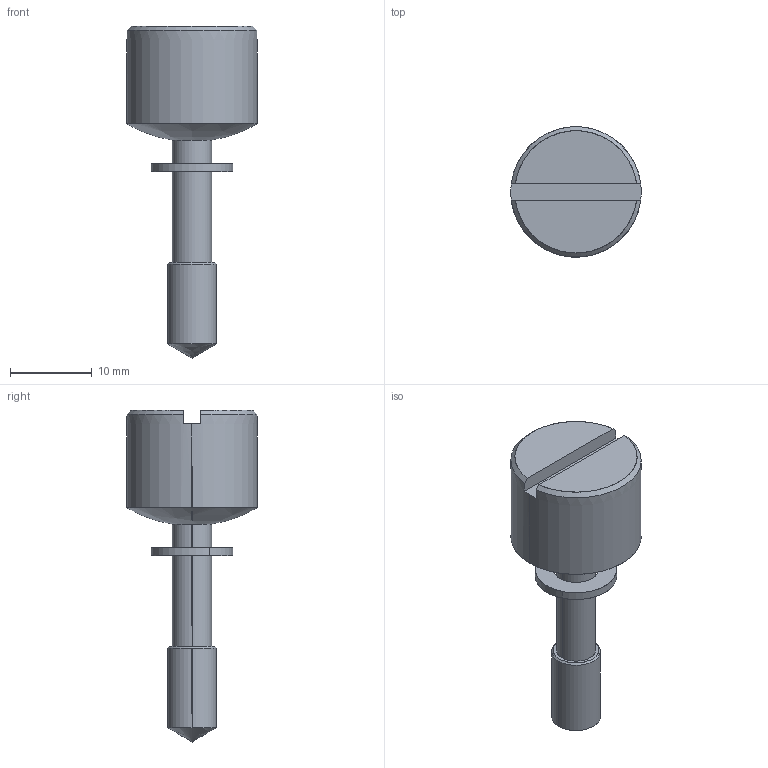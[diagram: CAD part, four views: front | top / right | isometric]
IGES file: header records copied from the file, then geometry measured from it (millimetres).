
Start section: SolidWorks IGES FILE using analytic representation for surfaces
Global section: file name: \\Ls-wvld1d\share\シブタニ\3D設計\ネジ・アイボルト\SCR-MK103(S)-7\SCR-MK103(S)-7.IGS,41HSolidWorks; native system: 2003 by SolidWorks Corporation; preprocessor: Version 5.3; author: user; date: 130702.183614; units: millimetre
Bounding box: 16 x 16 x 40.73 mm (x, y, z)
Surface area: 1648.6 mm2 (no closed solid volume)
Topology: 0 solids, 0 shells, 26 faces, 324 edges, 322 vertices
Faces by surface type: revolution 16, bspline 10
